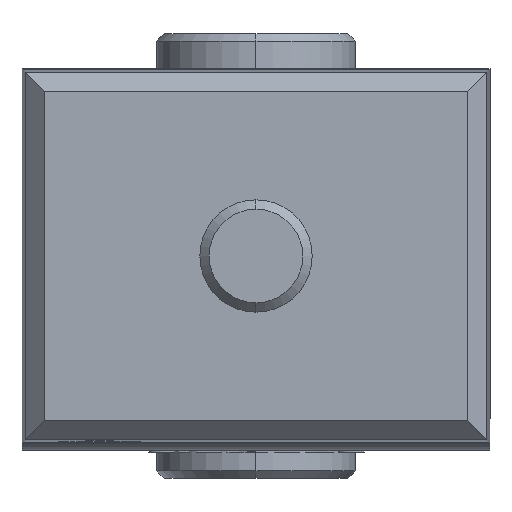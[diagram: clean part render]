
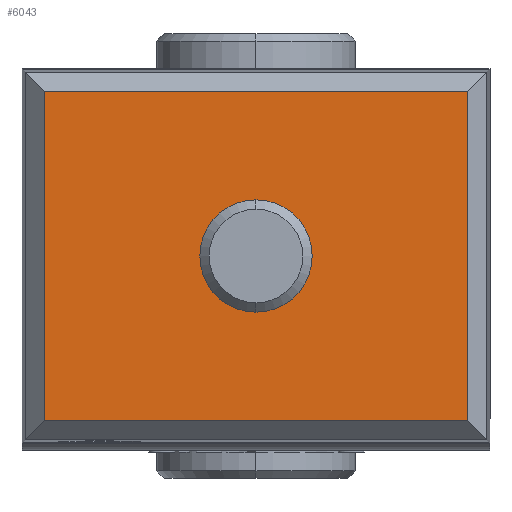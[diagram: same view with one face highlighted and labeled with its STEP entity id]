
A CAD part, front view. The second image highlights one B-rep face of the part: STEP entity #6043.
In plain terms, the highlighted planar face has unit normal (0, -1, 0).
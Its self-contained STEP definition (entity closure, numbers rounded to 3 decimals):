
#5868=CARTESIAN_POINT('',(45.222,-237.,82.722));
#5869=VERTEX_POINT('',#5868);
#5876=CARTESIAN_POINT('',(45.222,-237.,12.278));
#5877=VERTEX_POINT('',#5876);
#5878=CARTESIAN_POINT('',(45.222,-237.,82.722));
#5879=DIRECTION('',(0.0,0.0,-1.0));
#5880=VECTOR('',#5879,70.444);
#5881=LINE('',#5878,#5880);
#5882=EDGE_CURVE('',#5869,#5877,#5881,.T.);
#5907=CARTESIAN_POINT('',(-45.222,-237.,12.278));
#5908=VERTEX_POINT('',#5907);
#5909=CARTESIAN_POINT('',(45.222,-237.,12.278));
#5910=DIRECTION('',(-1.0,0.0,0.0));
#5911=VECTOR('',#5910,90.444);
#5912=LINE('',#5909,#5911);
#5913=EDGE_CURVE('',#5877,#5908,#5912,.T.);
#5937=CARTESIAN_POINT('',(-45.222,-237.0,82.722));
#5938=VERTEX_POINT('',#5937);
#5945=CARTESIAN_POINT('',(-45.222,-237.0,82.722));
#5946=DIRECTION('',(1.0,0.0,0.0));
#5947=VECTOR('',#5946,90.444);
#5948=LINE('',#5945,#5947);
#5949=EDGE_CURVE('',#5938,#5869,#5948,.T.);
#5967=CARTESIAN_POINT('',(-45.222,-237.,12.278));
#5968=DIRECTION('',(0.0,0.0,1.0));
#5969=VECTOR('',#5968,70.444);
#5970=LINE('',#5967,#5969);
#5971=EDGE_CURVE('',#5908,#5938,#5970,.T.);
#6032=CARTESIAN_POINT('',(0.,-237.,47.5));
#6033=DIRECTION('',(0.0,1.0,0.0));
#6034=DIRECTION('',(0.0,0.0,-1.0));
#6035=AXIS2_PLACEMENT_3D('',#6032,#6033,#6034);
#6036=PLANE('',#6035);
#6037=ORIENTED_EDGE('',*,*,#5882,.F.);
#6038=ORIENTED_EDGE('',*,*,#5949,.F.);
#6039=ORIENTED_EDGE('',*,*,#5971,.F.);
#6040=ORIENTED_EDGE('',*,*,#5913,.F.);
#6041=EDGE_LOOP('',(#6037,#6038,#6039,#6040));
#6042=FACE_OUTER_BOUND('',#6041,.T.);
#6043=ADVANCED_FACE('',(#6042),#6036,.F.);
